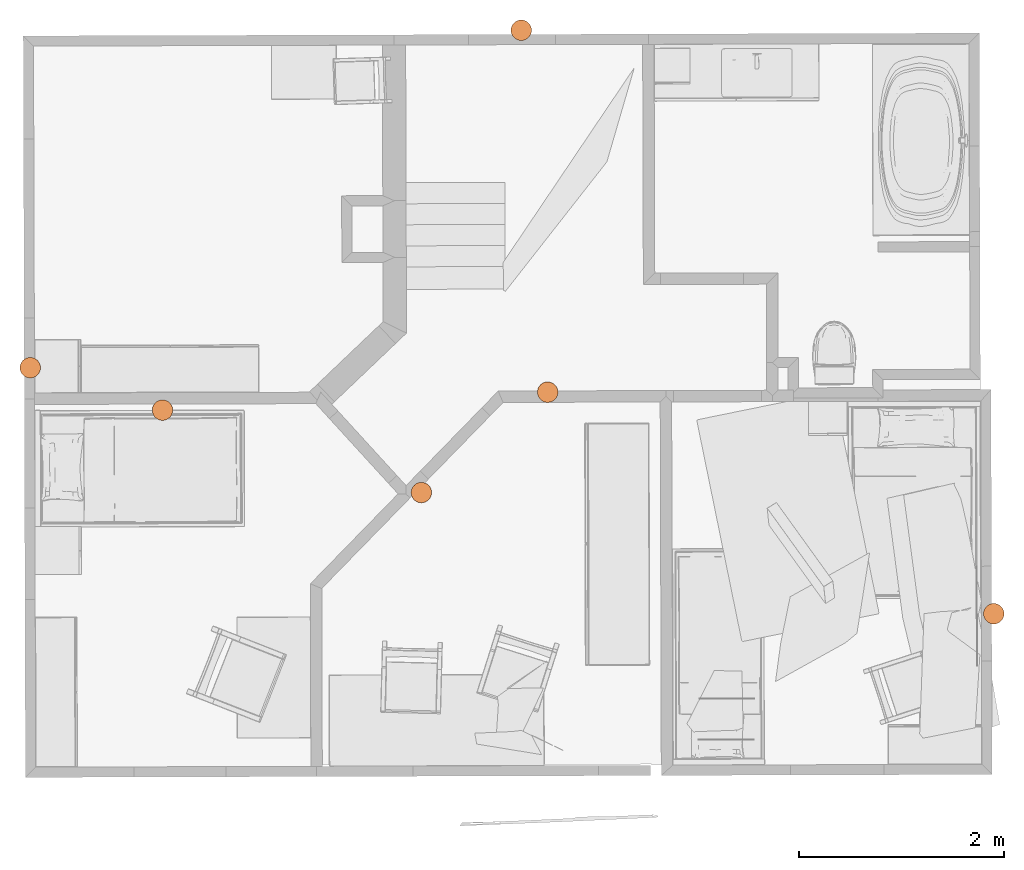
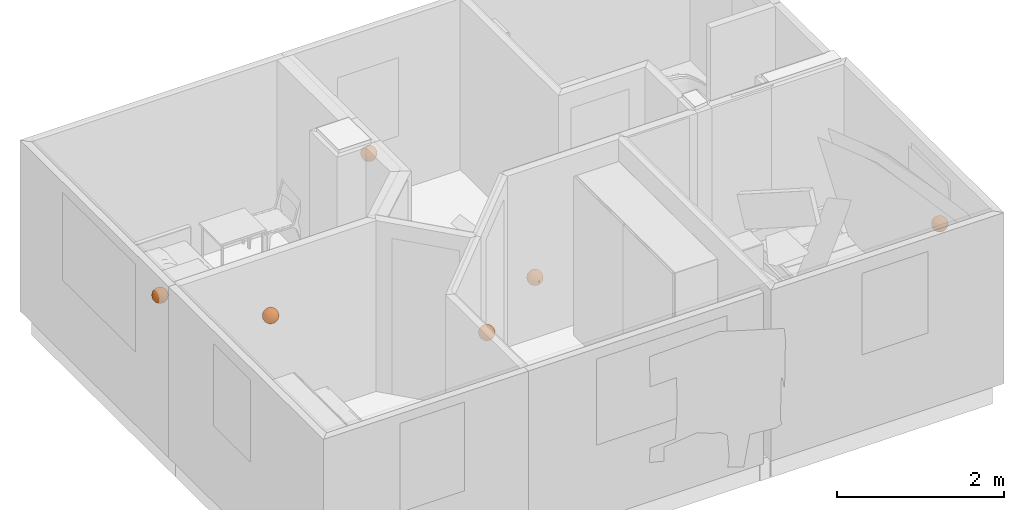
# One storey, part 15 of 15: 6 proxies.
"""IFC4 building model written with IfcOpenShell, lengths in metres."""

from ifc_helpers import new_model, entity, si_unit, direction, frame, origin_with_axes, place, context, subcontext, project, spatial, element, save


model = new_model("IFC4")

# Units and contexts
model_context = context("Model", 3, precision=1e-05, world=origin_with_axes(), true_north=direction((-0.077, 0.997, 0.0)))
body_context = subcontext(model_context, "Body", "Model", "MODEL_VIEW")
ifc_project = project(units=[si_unit("AREAUNIT", "SQUARE_METRE"), si_unit("LENGTHUNIT", "METRE")], contexts=[model_context])

# Site, building, storey, space
site_placement = place(None, origin_with_axes())
site = spatial("IfcSite", under=ifc_project, at=site_placement, Name="Site", CompositionType="ELEMENT")
building_placement = place(site_placement, origin_with_axes())
building = spatial("IfcBuilding", under=site, at=building_placement, Name="Building", CompositionType="ELEMENT")
storey_placement = place(building_placement, frame((0.0, 0.0, 5.71135139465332), z_axis=(0.0, 0.0, 1.0), x_axis=(1.0, 0.0, 0.0)))
storey = spatial("IfcBuildingStorey", under=building, at=storey_placement, Name="Story 2", CompositionType="ELEMENT", Elevation=5.71135139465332)
space_1_placement = place(storey_placement, frame((0.635277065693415, -3.4213377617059, 0.0), z_axis=(0.0, 0.0, 1.0), x_axis=(1.0, 0.0, 0.0)))
space_1 = spatial("IfcSpace", under=storey, at=space_1_placement, Name="012", CompositionType="ELEMENT")

# Proxy
proxy_1_placement = place(space_1_placement, frame((-1.44308689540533, 1.69774703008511, 1.67245244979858), z_axis=(0.0, 0.0, 1.0), x_axis=(1.0, 0.0, 0.0)))
element("IfcBuildingElementProxy", 1, at=proxy_1_placement, inside=space_1, Name="PointOfInterest", ObjectType="PointOfInterest", context=body_context, shape_type="CSG", body=[
    entity("IfcSphere", entity("IfcAxis2Placement3D", entity("IfcCartesianPoint", [0.0, 0.0, 0.0]), entity("IfcDirection", [0.0, 0.0, 1.0]), entity("IfcDirection", [1.0, 0.0, 0.0])), 0.1),
])

# Space
space_2_placement = place(storey_placement, frame((0.626030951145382, -1.54330558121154, 0.0), z_axis=(0.0, 0.0, 1.0), x_axis=(1.0, 0.0, 0.0)))
space_2 = spatial("IfcSpace", under=storey, at=space_2_placement, Name="014", CompositionType="ELEMENT")

# Proxy
proxy_2_placement = place(space_2_placement, frame((-2.72460845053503, 0.234315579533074, 2.17083406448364), z_axis=(0.0, 0.0, 1.0), x_axis=(1.0, 0.0, 0.0)))
element("IfcBuildingElementProxy", 2, at=proxy_2_placement, inside=space_2, Name="PointOfInterest", ObjectType="PointOfInterest", context=body_context, shape_type="CSG", body=[
    entity("IfcSphere", entity("IfcAxis2Placement3D", entity("IfcCartesianPoint", [0.0, 0.0, 0.0]), entity("IfcDirection", [0.0, 0.0, 1.0]), entity("IfcDirection", [1.0, 0.0, 0.0])), 0.1),
])

# Space
space_3_placement = place(storey_placement, frame((4.05763642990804, -5.18838181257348, 0.0), z_axis=(0.0, 0.0, 1.0), x_axis=(1.0, 0.0, 0.0)))
space_3 = spatial("IfcSpace", under=storey, at=space_3_placement, Name="015", CompositionType="ELEMENT")

# Proxy
proxy_3_placement = place(space_3_placement, frame((-2.33931069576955, 2.66077532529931, 1.02669525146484), z_axis=(0.0, 0.0, 1.0), x_axis=(1.0, 0.0, 0.0)))
element("IfcBuildingElementProxy", 3, at=proxy_3_placement, inside=space_3, Name="PointOfInterest", ObjectType="PointOfInterest", context=body_context, shape_type="CSG", body=[
    entity("IfcSphere", entity("IfcAxis2Placement3D", entity("IfcCartesianPoint", [0.0, 0.0, 0.0]), entity("IfcDirection", [0.0, 0.0, 1.0]), entity("IfcDirection", [1.0, 0.0, 0.0])), 0.1),
])

# Space
space_4_placement = place(storey_placement, frame((4.15984517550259, -1.64373686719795, 0.0), z_axis=(0.0, 0.0, 1.0), x_axis=(1.0, 0.0, 0.0)))
space_4 = spatial("IfcSpace", under=storey, at=space_4_placement, Name="016", CompositionType="ELEMENT")

# Proxy
proxy_4_placement = place(space_4_placement, frame((3.14380901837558, -2.06633827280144, 1.3801965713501), z_axis=(0.0, 0.0, 1.0), x_axis=(1.0, 0.0, 0.0)))
element("IfcBuildingElementProxy", 4, at=proxy_4_placement, inside=space_4, Name="PointOfInterest", ObjectType="PointOfInterest", context=body_context, shape_type="CSG", body=[
    entity("IfcSphere", entity("IfcAxis2Placement3D", entity("IfcCartesianPoint", [0.0, 0.0, 0.0]), entity("IfcDirection", [0.0, 0.0, 1.0]), entity("IfcDirection", [1.0, 0.0, 0.0])), 0.1),
])

# Space
space_5_placement = place(storey_placement, frame((1.57239541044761, -0.970197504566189, 0.0), z_axis=(0.0, 0.0, 1.0), x_axis=(1.0, 0.0, 0.0)))
space_5 = spatial("IfcSpace", under=storey, at=space_5_placement, Name="019", CompositionType="ELEMENT")

# Proxies
for number, where, z_axis, x_axis in (
    (5, (1.12010422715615, 2.95388264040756, 0.571690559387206), (0.0, 0.0, 1.0), (1.0, 0.0, 0.0)),
    (6, (1.37841287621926, -0.577723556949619, 0.808480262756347), (0.0, 0.0, 1.0), (1.0, 0.0, 0.0)),
):
    element("IfcBuildingElementProxy", number, at=place(space_5_placement, frame(where, z_axis=z_axis, x_axis=x_axis)), inside=space_5, Name="PointOfInterest", ObjectType="PointOfInterest", context=body_context, shape_type="CSG", body=[
        entity("IfcSphere", entity("IfcAxis2Placement3D", entity("IfcCartesianPoint", [0.0, 0.0, 0.0]), entity("IfcDirection", [0.0, 0.0, 1.0]), entity("IfcDirection", [1.0, 0.0, 0.0])), 0.1),
    ])

save(model, "model.ifc")
